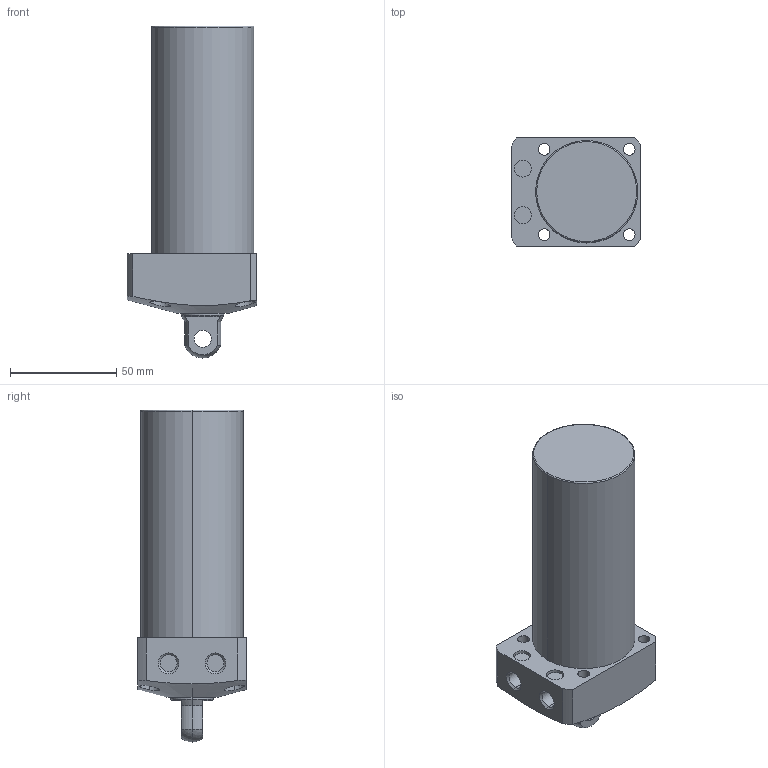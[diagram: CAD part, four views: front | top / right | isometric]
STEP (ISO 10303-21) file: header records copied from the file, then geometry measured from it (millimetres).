
FILE_DESCRIPTION (( 'STEP AP203' ), '1' );
FILE_NAME ('CLL048-CP-080.STEP', '2017-05-17T10:29:29', ( '' ), ( '' ), 'SwSTEP 2.0', 'SolidWorks 2015', '' );
FILE_SCHEMA (( 'CONFIG_CONTROL_DESIGN' ));
Length unit declared in the file: millimetre
Products named in the file (1): CLL048-CP-080
Bounding box: 61 x 51 x 156 mm (x, y, z)
Volume: 268960.5 mm3; surface area: 30954.6 mm2
Topology: 1 solids, 1 shells, 68 faces, 159 edges, 103 vertices
Faces by surface type: cylinder 35, plane 21, cone 8, sphere 2, torus 2
Entity records: 2390 total; most frequent: CARTESIAN_POINT 693, DIRECTION 357, ORIENTED_EDGE 318, EDGE_CURVE 159, AXIS2_PLACEMENT_3D 149, VERTEX_POINT 103, EDGE_LOOP 88, CIRCLE 80
